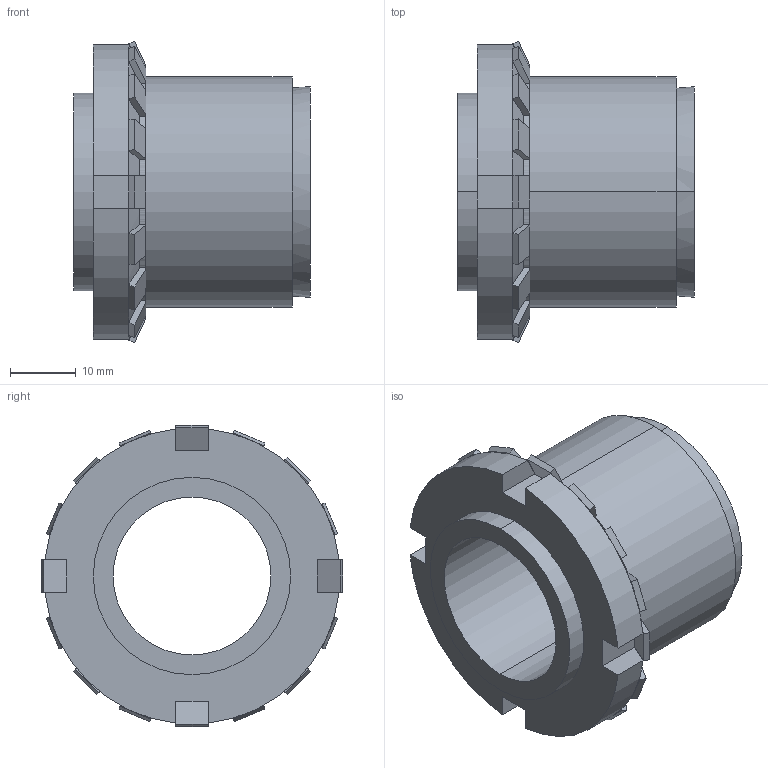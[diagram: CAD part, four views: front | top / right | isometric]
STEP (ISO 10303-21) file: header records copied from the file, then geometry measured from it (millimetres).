
FILE_DESCRIPTION (( 'STEP AP203' ), '1' );
FILE_NAME ('SI-24.STEP', '2009-09-29T17:25:01', ( 'USER' ), ( 'HOME' ), 'SwSTEP 2.0', 'SolidWorks 2007', '' );
FILE_SCHEMA (( 'CONFIG_CONTROL_DESIGN' ));
Length unit declared in the file: millimetre
Products named in the file (1): SI-24
Bounding box: 36 x 45.85 x 45.85 mm (x, y, z)
Volume: 27624.6 mm3; surface area: 32966.2 mm2
Topology: 19 solids, 19 shells, 232 faces, 574 edges, 380 vertices
Faces by surface type: plane 130, cylinder 94, cone 8
Entity records: 7043 total; most frequent: CARTESIAN_POINT 1235, DIRECTION 1220, ORIENTED_EDGE 1148, EDGE_CURVE 574, AXIS2_PLACEMENT_3D 429, VERTEX_POINT 380, VECTOR 362, LINE 362
